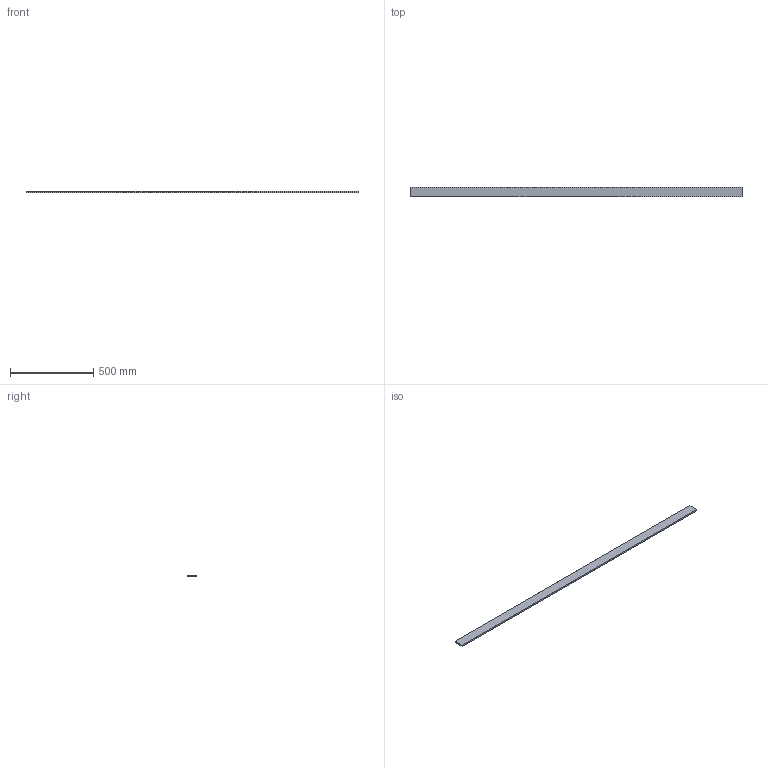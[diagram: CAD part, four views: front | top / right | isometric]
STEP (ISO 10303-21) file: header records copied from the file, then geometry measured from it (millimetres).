
FILE_DESCRIPTION (( 'STEP AP214' ), '1' );
FILE_NAME ('04546.STEP', '2014-03-17T12:27:39', ( '' ), ( '' ), 'SwSTEP 2.0', 'SolidWorks 2013', '' );
FILE_SCHEMA (( 'AUTOMOTIVE_DESIGN' ));
Length unit declared in the file: millimetre
Products named in the file (1): 04546
Bounding box: 2000 x 60 x 10 mm (x, y, z)
Volume: 1199892.7 mm3; surface area: 280341.5 mm2
Topology: 1 solids, 1 shells, 10 faces, 24 edges, 16 vertices
Faces by surface type: plane 6, cylinder 4
Entity records: 330 total; most frequent: DIRECTION 54, CARTESIAN_POINT 51, ORIENTED_EDGE 48, EDGE_CURVE 24, AXIS2_PLACEMENT_3D 19, LINE 16, VECTOR 16, VERTEX_POINT 16
